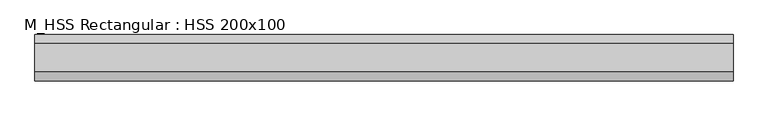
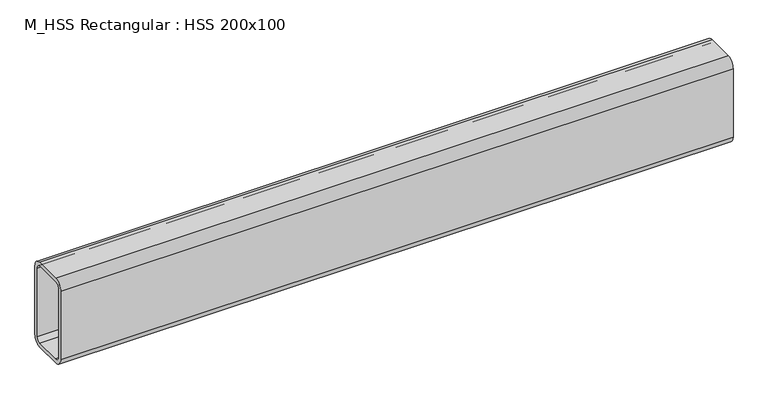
"""IFC4 building model written with IfcOpenShell, lengths in millimetres: beam geometry, M_HSS Rectangular : HSS 200x100."""

from ifc_helpers import new_model, si_unit, point, frame, frame_2d, origin, place, context, project, spatial, polyline, circle_curve, trimmed, segment, composite_curve, outline, extrude, source, transform, mapped, element, save


def m_hss_rectangular_hss_200x100_5f17627f(model_context):
    return source(origin(), model_context, "Body", "SweptSolid", [
        extrude(outline(composite_curve([segment(trimmed(circle_curve(frame_2d((-30.94, 80.94)), 19.06), [point((-50.0, 80.94))], [point((-30.94, 100.0))], False, "CARTESIAN"), True, "CONTINUOUS"), segment(polyline([(-30.94, 100.0), (30.94, 100.0)]), True, "CONTINUOUS"), segment(trimmed(circle_curve(frame_2d((30.94, 80.94)), 19.06), [point((30.94, 100.0))], [point((50.0, 80.94))], False, "CARTESIAN"), True, "CONTINUOUS"), segment(polyline([(50.0, 80.94), (50.0, -80.94)]), True, "CONTINUOUS"), segment(trimmed(circle_curve(frame_2d((30.94, -80.94)), 19.06), [point((50.0, -80.94))], [point((30.94, -100.0))], False, "CARTESIAN"), True, "CONTINUOUS"), segment(polyline([(30.94, -100.0), (-30.94, -100.0)]), True, "CONTINUOUS"), segment(trimmed(circle_curve(frame_2d((-30.94, -80.94)), 19.06), [point((-30.94, -100.0))], [point((-50.0, -80.94))], False, "CARTESIAN"), True, "CONTINUOUS"), segment(polyline([(-50.0, -80.94), (-50.0, 80.94)]), True, "CONTINUOUS")], self_intersect=False), holes=[composite_curve([segment(polyline([(30.94, 90.47), (-30.94, 90.47)]), True, "CONTINUOUS"), segment(trimmed(circle_curve(frame_2d((-30.94, 80.94)), 9.53), [point((-30.94, 90.47))], [point((-40.47, 80.94))], True, "CARTESIAN"), True, "CONTINUOUS"), segment(polyline([(-40.47, 80.94), (-40.47, -80.94)]), True, "CONTINUOUS"), segment(trimmed(circle_curve(frame_2d((-30.94, -80.94)), 9.53), [point((-40.47, -80.94))], [point((-30.94, -90.47))], True, "CARTESIAN"), True, "CONTINUOUS"), segment(polyline([(-30.94, -90.47), (30.94, -90.47)]), True, "CONTINUOUS"), segment(trimmed(circle_curve(frame_2d((30.94, -80.94)), 9.53), [point((30.94, -90.47))], [point((40.47, -80.94))], True, "CARTESIAN"), True, "CONTINUOUS"), segment(polyline([(40.47, -80.94), (40.47, 80.94)]), True, "CONTINUOUS"), segment(trimmed(circle_curve(frame_2d((30.94, 80.94)), 9.53), [point((40.47, 80.94))], [point((30.94, 90.47))], True, "CARTESIAN"), True, "CONTINUOUS")], self_intersect=False)]), frame((-721.85, 0.0, 0.0), z_axis=(1.0, 0.0, 0.0), x_axis=(0.0, 1.0, 0.0)), (0.0, 0.0, 1.0), 1503.9),
    ])


if __name__ == "__main__":
    model = new_model("IFC4")
    model_context = context("Model", 3, world=origin())
    ifc_project = project(units=[si_unit("LENGTHUNIT", "METRE", prefix="MILLI")], contexts=[model_context])
    site = spatial("IfcSite", under=ifc_project)
    building = spatial("IfcBuilding", under=site)
    placement = place(None, origin())
    m_hss_rectangular_hss_200x100_shape = m_hss_rectangular_hss_200x100_5f17627f(model_context)
    element("IfcBeam", 1, ObjectType="M_HSS Rectangular : HSS 200x100", at=placement, inside=building, context=model_context, shape_type="MappedRepresentation", body=[
        mapped(m_hss_rectangular_hss_200x100_shape, transform((0.0, 0.0, 0.0), x_axis=(1.0, 0.0, 0.0), y_axis=(0.0, 1.0, 0.0), z_axis=(0.0, 0.0, 1.0))),
    ])
    save(model, "model.ifc")
